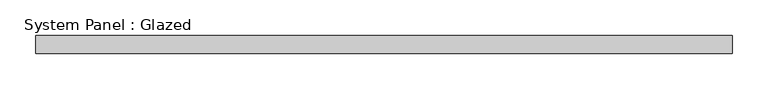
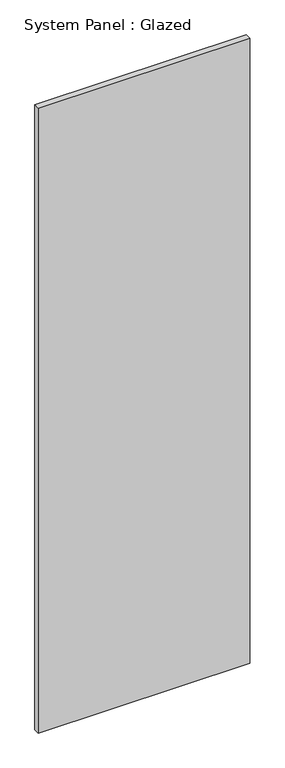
"""IFC4 building model written with IfcOpenShell, lengths in millimetres: plate geometry, System Panel : Glazed."""

import ifcopenshell
import ifcopenshell.guid

model = None  # the IFC model being written
_history = None  # IfcOwnerHistory: only IFC2X3 demands one
_inside = {}  # id of a spatial element -> (the spatial element, [elements in it])
_under = {}  # id of a project, library or spatial element -> (it, [spatial elements below it])
_declared = {}  # id of a project -> (the project, [libraries it declares])
_typed = {}  # id of a type object -> (the type object, [elements of that type])
_made_of = {}  # id of a material, layer set ... -> (it, [elements and type objects made of it])


def new_model(schema):
    """Start an empty IFC model of exactly this schema.

    Asked for "IFC4X3", IfcOpenShell would pick the latest addendum, in which some entities
    have other attributes; the version numbers below select the first issue.
    IFC2X3 requires an IfcOwnerHistory on every rooted entity: one is made here for all.
    """
    global model, _history
    if schema == "IFC4X3":
        model = ifcopenshell.file(schema_version=(4, 3, 0, 0))
    else:
        model = ifcopenshell.file(schema=schema)
    _inside.clear()
    _under.clear()
    _declared.clear()
    _typed.clear()
    _made_of.clear()
    _history = None
    if model.schema == "IFC2X3":
        org = make("IfcOrganization", Name="unknown")
        user = make(
            "IfcPersonAndOrganization",
            ThePerson=make("IfcPerson", FamilyName="unknown"),
            TheOrganization=org,
        )
        app = make(
            "IfcApplication",
            ApplicationDeveloper=org,
            Version="unknown",
            ApplicationFullName="unknown",
            ApplicationIdentifier="unknown",
        )
        _history = make(
            "IfcOwnerHistory",
            OwningUser=user,
            OwningApplication=app,
            ChangeAction="ADDED",
            CreationDate=0,
        )
    return model


def make(cls, **values):
    """One entity of the class cls with the attributes given. An attribute that is None is left unset."""
    return model.create_entity(
        cls, **{name: value for name, value in values.items() if value is not None}
    )


def rooted(cls, **values):
    """An entity with a GlobalId (a new one), such as an element, a storey or a relation."""
    return make(cls, GlobalId=ifcopenshell.guid.new(), OwnerHistory=_history, **values)


def si_unit(unit_type, name, prefix=None):
    """IfcSIUnit, for example si_unit("LENGTHUNIT", "METRE", prefix="MILLI")."""
    return make("IfcSIUnit", UnitType=unit_type, Prefix=prefix, Name=name)


def assignment(units):
    """IfcUnitAssignment: the units of a project."""
    return None if units is None else make("IfcUnitAssignment", Units=units)


def point(xyz):
    """IfcCartesianPoint."""
    return None if xyz is None else make("IfcCartesianPoint", Coordinates=xyz)


def direction(xyz):
    """IfcDirection."""
    return None if xyz is None else make("IfcDirection", DirectionRatios=xyz)


def frame(location, z_axis=None, x_axis=None):
    """IfcAxis2Placement3D, a coordinate frame: its origin and axes. An axis left out is left unset."""
    return make(
        "IfcAxis2Placement3D",
        Location=point(location),
        Axis=direction(z_axis),
        RefDirection=direction(x_axis),
    )


def origin():
    """The frame at (0, 0, 0) with its axes left unset."""
    return frame((0.0, 0.0, 0.0))


def origin_with_axes():
    """The frame at (0, 0, 0) with the z axis (0, 0, 1) and the x axis (1, 0, 0) written out."""
    return frame((0.0, 0.0, 0.0), z_axis=(0.0, 0.0, 1.0), x_axis=(1.0, 0.0, 0.0))


def place(relative_to, where):
    """IfcLocalPlacement: puts the frame where relative to a parent placement (None: the world)."""
    return make(
        "IfcLocalPlacement", PlacementRelTo=relative_to, RelativePlacement=where
    )


def context(
    kind, dimensions, precision=None, world=None, true_north=None, identifier=None
):
    """IfcGeometricRepresentationContext, for example the 3D "Model" context."""
    return make(
        "IfcGeometricRepresentationContext",
        ContextIdentifier=identifier,
        ContextType=kind,
        CoordinateSpaceDimension=dimensions,
        Precision=precision,
        WorldCoordinateSystem=world,
        TrueNorth=true_north,
    )


def project(units=None, contexts=None):
    """IfcProject with its units and contexts."""
    return rooted(
        "IfcProject",
        Name="project",
        RepresentationContexts=contexts,
        UnitsInContext=assignment(units),
    )


def spatial(cls, under=None, at=None, **own):
    """A site, building, storey or space (cls), placed at a placement, below another one or the project."""
    s = rooted(cls, ObjectPlacement=at, **own)
    if under is not None:
        _under.setdefault(under.id(), (under, []))[1].append(s)
    return s


def polyline(points):
    """IfcPolyline through the points."""
    return make("IfcPolyline", Points=[point(p) for p in points])


def outline(outer, holes=None, kind="AREA"):
    """IfcArbitraryClosedProfileDef: a profile drawn as a closed curve; with holes, ...WithVoids."""
    if holes is None:
        return make("IfcArbitraryClosedProfileDef", ProfileType=kind, OuterCurve=outer)
    return make(
        "IfcArbitraryProfileDefWithVoids",
        ProfileType=kind,
        OuterCurve=outer,
        InnerCurves=holes,
    )


def extrude(swept, where, along, depth):
    """IfcExtrudedAreaSolid: the profile swept, set in the frame where, extruded along a direction by depth."""
    return make(
        "IfcExtrudedAreaSolid",
        SweptArea=swept,
        Position=where,
        ExtrudedDirection=direction(along),
        Depth=depth,
    )


def shape(context_of_items, identifier, shape_type, items):
    """IfcShapeRepresentation: the items that make up one representation, for example the "Body"."""
    return make(
        "IfcShapeRepresentation",
        ContextOfItems=context_of_items,
        RepresentationIdentifier=identifier,
        RepresentationType=shape_type,
        Items=items,
    )


def source(mapping_origin, context_of_items, identifier, shape_type, items):
    """IfcRepresentationMap: a shape defined once, which mapped items show again and again."""
    return make(
        "IfcRepresentationMap",
        MappingOrigin=mapping_origin,
        MappedRepresentation=shape(context_of_items, identifier, shape_type, items),
    )


def transform(
    local_origin,
    x_axis=None,
    y_axis=None,
    z_axis=None,
    scale=None,
    scale2=None,
    scale3=None,
    uniform=True,
):
    """IfcCartesianTransformationOperator3D, or its non-uniform kind. x_axis, y_axis, z_axis: its Axis1, 2, 3."""
    if uniform:
        return make(
            "IfcCartesianTransformationOperator3D",
            Axis1=direction(x_axis),
            Axis2=direction(y_axis),
            LocalOrigin=point(local_origin),
            Scale=scale,
            Axis3=direction(z_axis),
        )
    return make(
        "IfcCartesianTransformationOperator3DnonUniform",
        Axis1=direction(x_axis),
        Axis2=direction(y_axis),
        LocalOrigin=point(local_origin),
        Scale=scale,
        Axis3=direction(z_axis),
        Scale2=scale2,
        Scale3=scale3,
    )


def mapped(mapping_source, mapping_target):
    """IfcMappedItem: shows the shape of a source again, moved by a transform."""
    return make(
        "IfcMappedItem", MappingSource=mapping_source, MappingTarget=mapping_target
    )


def made_of(thing, what):
    """Note that an element or type object is made of a material, layer set ...; save() writes the relation."""
    if what is not None:
        _made_of.setdefault(what.id(), (what, []))[1].append(thing)
    return thing


def element(
    cls,
    number,
    at=None,
    inside=None,
    cuts=None,
    type_object=None,
    material=None,
    context=None,
    identifier="Body",
    shape_type=None,
    held_by="IfcProductDefinitionShape",
    body=None,
    shapes=None,
    **own,
):
    """One element of the class cls, such as IfcWall. Its Tag is "e" and its number.

    at: its placement. inside: the storey or other place that contains it. cuts: it is an
    opening in that element (IfcRelVoidsElement). A single representation is given by context,
    identifier, shape_type and body (its items); several are given by shapes. held_by: the class
    of the entity that holds the representations. save() writes the other relations.
    """
    e = rooted(cls, Tag="e%d" % number, ObjectPlacement=at, **own)
    if body is not None:
        shapes = [shape(context, identifier, shape_type, body)]
    if shapes is not None:
        e.Representation = make(held_by, Representations=shapes)
    if inside is not None:
        _inside.setdefault(inside.id(), (inside, []))[1].append(e)
    if cuts is not None:
        rooted(
            "IfcRelVoidsElement", RelatingBuildingElement=cuts, RelatedOpeningElement=e
        )
    if type_object is not None:
        _typed.setdefault(type_object.id(), (type_object, []))[1].append(e)
    return made_of(e, material)


def aggregate(whole, parts):
    """IfcRelAggregates: a whole, such as a stair, and the parts it consists of."""
    return rooted("IfcRelAggregates", RelatingObject=whole, RelatedObjects=parts)


def save(model, path):
    """Write the relations noted so far, then the file.

    IfcRelAggregates (storeys below a building ...), IfcRelContainedInSpatialStructure (elements
    in a storey), IfcRelDefinesByType, IfcRelAssociatesMaterial and IfcRelDeclares: one each for
    every whole, place, type object, material and project.
    """
    for whole, parts in _under.values():
        aggregate(whole, parts)
    for where, things in _inside.values():
        rooted(
            "IfcRelContainedInSpatialStructure",
            RelatedElements=things,
            RelatingStructure=where,
        )
    for kind, things in _typed.values():
        rooted("IfcRelDefinesByType", RelatedObjects=things, RelatingType=kind)
    for what, things in _made_of.values():
        rooted("IfcRelAssociatesMaterial", RelatedObjects=things, RelatingMaterial=what)
    for by, libraries in _declared.values():
        rooted("IfcRelDeclares", RelatingContext=by, RelatedDefinitions=libraries)
    model.write(path)


def system_panel_glazed_c02fb8ab(model_context):
    return source(origin(), model_context, "Body", "SweptSolid", [
        extrude(outline(polyline([(487.0152344, 19.05), (-487.0152344, 19.05), (-487.0152344, 44.45), (487.0152344, 44.45), (487.0152344, 19.05)])), origin_with_axes(), (0.0, 0.0, 1.0), 3041.65),
    ])


if __name__ == "__main__":
    model = new_model("IFC4")
    model_context = context("Model", 3, world=origin())
    ifc_project = project(units=[si_unit("LENGTHUNIT", "METRE", prefix="MILLI")], contexts=[model_context])
    site = spatial("IfcSite", under=ifc_project)
    building = spatial("IfcBuilding", under=site)
    placement = place(None, origin())
    system_panel_glazed_shape = system_panel_glazed_c02fb8ab(model_context)
    element("IfcPlate", 1, ObjectType="System Panel : Glazed", at=placement, inside=building, context=model_context, shape_type="MappedRepresentation", body=[
        mapped(system_panel_glazed_shape, transform((0.0, 0.0, 0.0), x_axis=(1.0, 0.0, 0.0), y_axis=(0.0, 1.0, 0.0), z_axis=(0.0, 0.0, 1.0))),
    ])
    save(model, "model.ifc")
